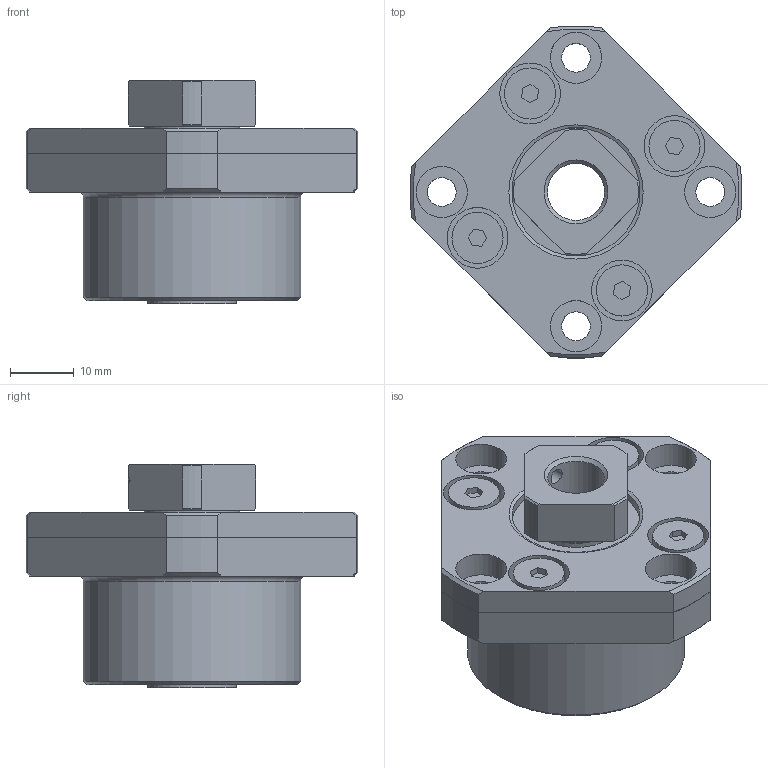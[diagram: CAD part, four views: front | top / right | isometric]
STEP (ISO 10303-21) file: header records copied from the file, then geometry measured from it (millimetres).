
FILE_DESCRIPTION(/* description */ ('STEP AP214'),/* implementation_level */ '2;1');
FILE_NAME(/* name */ 'FK10______CAD_NO_Yes-FS',/* time_stamp */ '2026-09-17T13:19:41+02:00',/* author */ ('License CC BY-ND 4.0'),/* organization */ ('CADENAS'),/* preprocessor_version */ 'ST-DEVELOPER v20',/* originating_system */ 'PARTsolutions',/* authorisation */ ' ');
FILE_SCHEMA (('AUTOMOTIVE_DESIGN {1 0 10303 214 3 1 1}'));
Length unit declared in the file: millimetre
Products named in the file (4): FK10______CAD_NO_Yes-FS; FK 10-FS-1; FK 10collar; RN 10
Assembly tree (4 placements, depth 2):
  FK10______CAD_NO_Yes-FS
    FK 10-FS-1
    FK 10collar  x2
    RN 10
Bounding box: 51.93 x 51.93 x 35 mm (x, y, z)
Volume: 29771.7 mm3; surface area: 11201.7 mm2
Topology: 4 solids, 4 shells, 156 faces, 355 edges, 235 vertices
Faces by surface type: plane 83, cylinder 49, cone 23, torus 1
Full cylindrical faces by diameter (mm): 2.459 x1, 3 x1, 4.5 x4, 8 x8, 8.917 x1, 9.5 x4, 10 x3, 13.9 x4, 15 x1, 20 x2, 22 x1, 22.04 x1, 34 x1
Entity records: 4268 total; most frequent: CARTESIAN_POINT 809, DIRECTION 702, ORIENTED_EDGE 614, EDGE_CURVE 307, AXIS2_PLACEMENT_3D 273, EDGE_LOOP 232, FACE_BOUND 232, VERTEX_POINT 227
